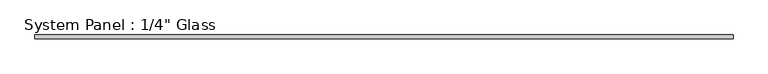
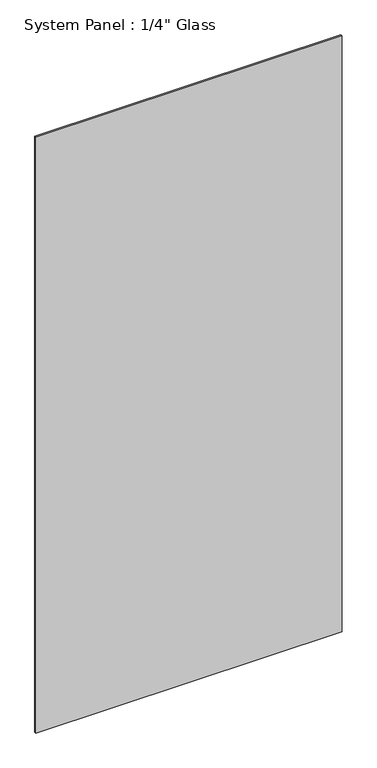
"""IFC4 building model written with IfcOpenShell, lengths in millimetres: plate geometry."""

from ifc_helpers import new_model, si_unit, origin, origin_with_axes, place, context, project, spatial, polyline, outline, extrude, source, transform, mapped, element, save


def plate_0d1907f3(model_context):
    return source(origin(), model_context, "Body", "SweptSolid", [
        extrude(outline(polyline([(605.1259077, -3.175), (-605.1259077, -3.175), (-605.1259077, 3.175), (605.1259077, 3.175), (605.1259077, -3.175)])), origin_with_axes(), (0.0, 0.0, 1.0), 2489.2),
    ])


if __name__ == "__main__":
    model = new_model("IFC4")
    model_context = context("Model", 3, world=origin())
    ifc_project = project(units=[si_unit("LENGTHUNIT", "METRE", prefix="MILLI")], contexts=[model_context])
    site = spatial("IfcSite", under=ifc_project)
    building = spatial("IfcBuilding", under=site)
    placement = place(None, origin())
    plate_shape = plate_0d1907f3(model_context)
    element("IfcPlate", 1, ObjectType="System Panel : 1/4\" Glass", at=placement, inside=building, context=model_context, shape_type="MappedRepresentation", body=[
        mapped(plate_shape, transform((0.0, 0.0, 0.0), x_axis=(1.0, 0.0, 0.0), y_axis=(0.0, 1.0, 0.0), z_axis=(0.0, 0.0, 1.0))),
    ])
    save(model, "model.ifc")
